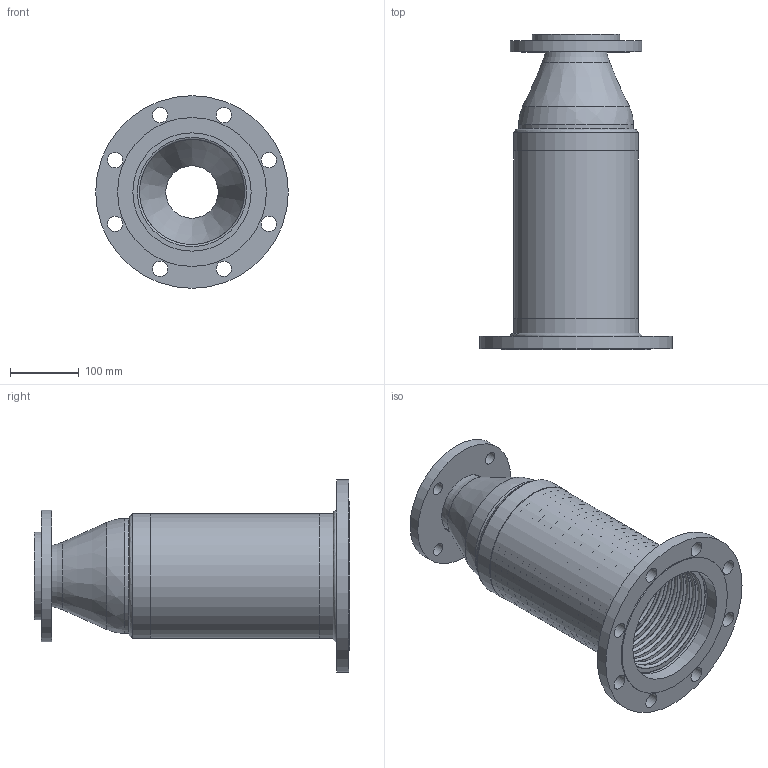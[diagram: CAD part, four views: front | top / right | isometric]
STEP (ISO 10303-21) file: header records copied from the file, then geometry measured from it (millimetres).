
FILE_DESCRIPTION((''),'2;1');
FILE_NAME('C:\2012_Work\Designs\RFFL\RFFL-6x3in.stp','2013-08-19T16:28:30',('KShiels'),(''),'Autodesk Inventor 2012','Autodesk Inventor 2012','');
FILE_SCHEMA(('AUTOMOTIVE_DESIGN { 1 0 10303 214 1 1 1 1 }'));
Length unit declared in the file: inch
Products named in the file (9): RFFL-6x3in; RFFL-6x3in_Welds; A-31000_6in_RFFL-BRAID; A-31000_6in_RFFL-BELLOWS; A-31000_6in_RFFL-BRAID-COLLAR; A-30988_6in-FIXED-FLANGE; A-30989_3in-FLOATING-FLANGE; A-30991_6x3in-REDUCER; A-30990_3in-WASHER
Assembly tree (9 placements, depth 2):
  RFFL-6x3in
    RFFL-6x3in_Welds
    A-31000_6in_RFFL-BRAID
    A-31000_6in_RFFL-BELLOWS
    A-31000_6in_RFFL-BRAID-COLLAR  x2
    A-30988_6in-FIXED-FLANGE
    A-30989_3in-FLOATING-FLANGE
    A-30991_6x3in-REDUCER
    A-30990_3in-WASHER
Bounding box: 279.4 x 457.39 x 279.4 mm (x, y, z)
Volume: 1683263.5 mm3; surface area: 1541028.3 mm2
Topology: 11 solids, 11 shells, 256 faces, 431 edges, 291 vertices
Faces by surface type: plane 116, torus 99, cylinder 32, cone 5, bspline 4
Full cylindrical faces by diameter (mm): 19.05 x4, 22.225 x8, 76.2 x1, 87.173 x1, 92.075 x3, 127 x1, 152.4 x1, 166.624 x2, 171.45 x1, 179.07 x3, 180.086 x1, 181.451 x3, 190.5 x1, 215.9 x1, 279.4 x1
Entity records: 6458 total; most frequent: CARTESIAN_POINT 1703, DIRECTION 1048, ORIENTED_EDGE 546, EDGE_LOOP 525, AXIS2_PLACEMENT_3D 524, EDGE_CURVE 273, FACE_BOUND 273, VERTEX_POINT 270
